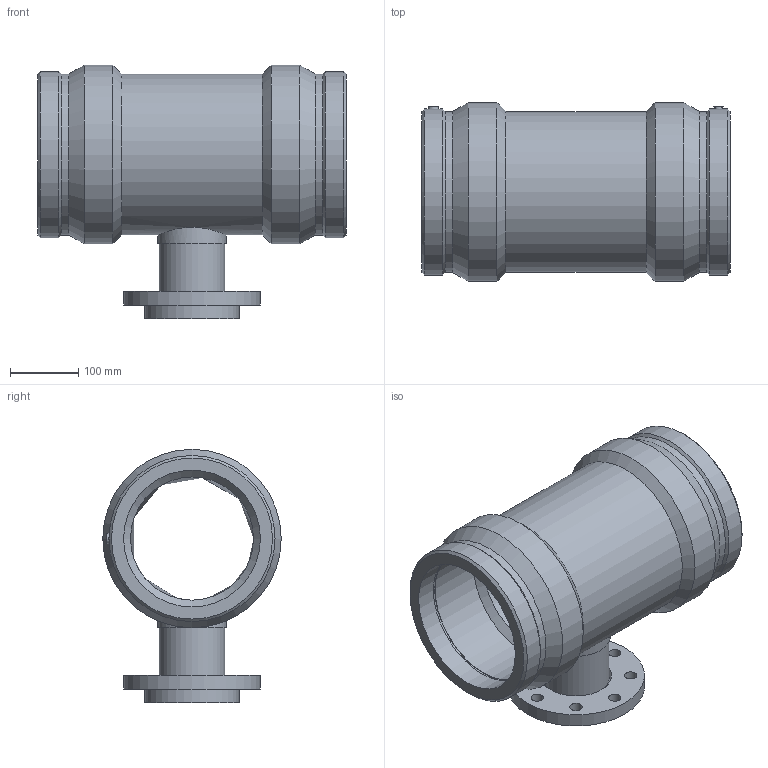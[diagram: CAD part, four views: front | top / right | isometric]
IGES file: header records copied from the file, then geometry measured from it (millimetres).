
Global section: file name: 499404200080.ipt; native system: Autodesk Inventor 2015; preprocessor: unknown; author: KIM; date: 20171106.094456; units: millimetre
Bounding box: 451 x 261 x 370.5 mm (x, y, z)
Volume: 8758427 mm3; surface area: 807042.2 mm2
Topology: 1 solids, 2 shells, 60 faces, 136 edges, 90 vertices
Faces by surface type: revolution 21, plane 14, cylinder 13, cone 11, bspline 1
Full cylindrical faces by diameter (mm): 4 x2, 96 x1, 100 x1, 138 x1, 200 x1, 234.9 x1, 235.448 x2, 242.73 x2, 261 x2
